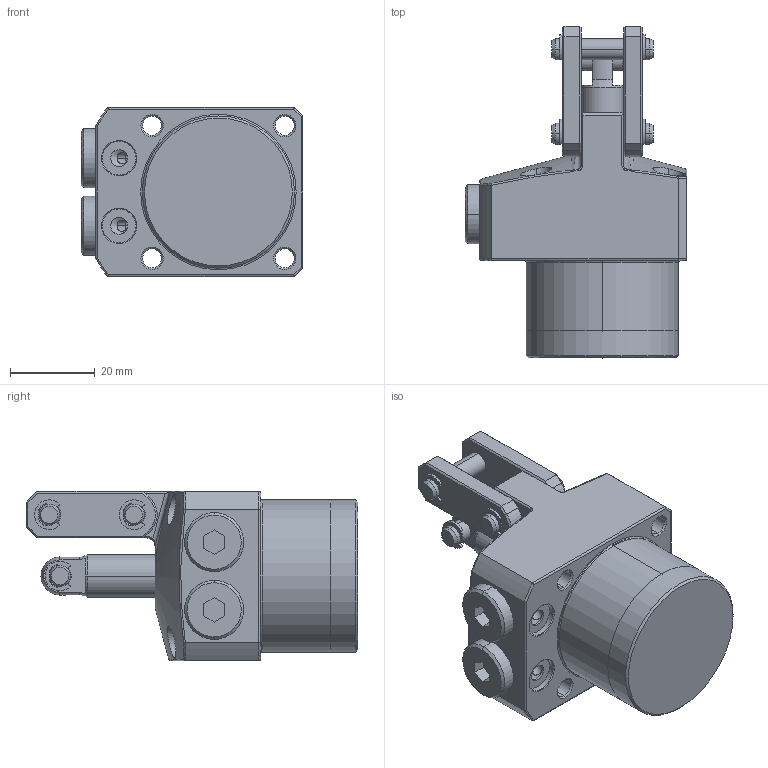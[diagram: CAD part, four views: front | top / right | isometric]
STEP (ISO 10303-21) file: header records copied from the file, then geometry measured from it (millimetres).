
FILE_DESCRIPTION(/* description */ (''),/* implementation_level */ '2;1');
FILE_NAME(/* name */ 'KTPC36-R.stp',/* time_stamp */ '2022-11-18T14:15:17+08:00',/* author */ (''),/* organization */ (''),/* preprocessor_version */ 'ST-DEVELOPER v16.7',/* originating_system */ 'SIEMENS PLM Software NX 12.0',/* authorisation */ '');
FILE_SCHEMA (('AP203_CONFIGURATION_CONTROLLED_3D_DESIGN_OF_MECHANICAL_PARTS_AND_ASSEMBLIES_MIM_LF { 1 0 10303 403 2 1 2}'));
Length unit declared in the file: millimetre
Products named in the file (9): KTPC36-R-08; KTPC36-R-01; KTPC36-R-06; KTPC36-R-04; KTPC36-R-03; KTPC36-R-02; KTPC36-R-07; KTPC36-R-09; LKA0360-CR_step
Assembly tree (16 placements, depth 2):
  LKA0360-CR_step
    KTPC36-R-09  x6
    KTPC36-R-07
    KTPC36-R-02  x2
    KTPC36-R-03  x2
    KTPC36-R-04  x2
    KTPC36-R-06
    KTPC36-R-01
    KTPC36-R-08
Bounding box: 52.5 x 78.5 x 40 mm (x, y, z)
Volume: 87987.3 mm3; surface area: 22217.2 mm2
Topology: 16 solids, 16 shells, 525 faces, 1244 edges, 773 vertices
Faces by surface type: cylinder 200, plane 175, cone 69, torus 60, bspline 19, sphere 2
Full cylindrical faces by diameter (mm): 36 x1
Entity records: 11428 total; most frequent: CARTESIAN_POINT 2968, DIRECTION 1569, ORIENTED_EDGE 1458, EDGE_CURVE 729, AXIS2_PLACEMENT_3D 639, VERTEX_POINT 446, EDGE_LOOP 357, CIRCLE 323
